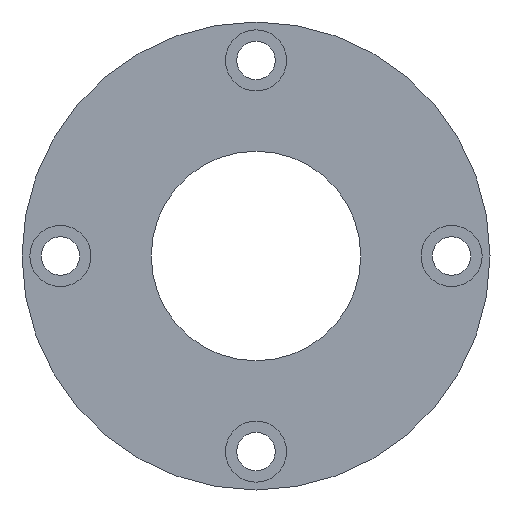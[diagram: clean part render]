
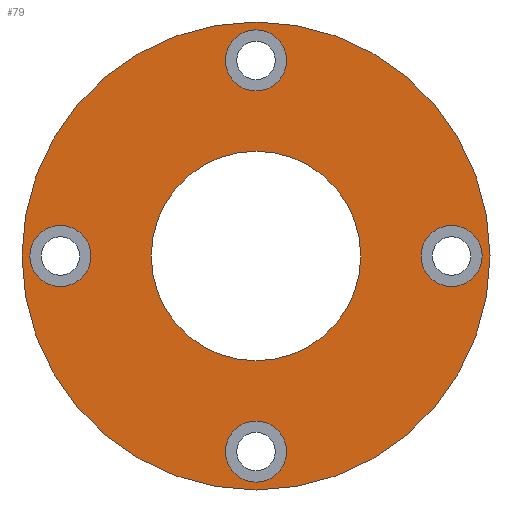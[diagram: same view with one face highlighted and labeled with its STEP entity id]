
A CAD part, left-side view. The second image highlights one B-rep face of the part: STEP entity #79.
In plain terms, the highlighted planar face has unit normal (-1, 0, 0).
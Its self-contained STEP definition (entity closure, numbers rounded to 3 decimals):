
#79 = ADVANCED_FACE( '', ( #110, #111, #112, #113, #114, #115 ), #116, .T. );
#110 = FACE_BOUND( '', #172, .T. );
#111 = FACE_BOUND( '', #173, .T. );
#112 = FACE_BOUND( '', #174, .T. );
#113 = FACE_BOUND( '', #175, .T. );
#114 = FACE_BOUND( '', #176, .T. );
#115 = FACE_OUTER_BOUND( '', #177, .T. );
#116 = PLANE( '', #178 );
#172 = EDGE_LOOP( '', ( #242 ) );
#173 = EDGE_LOOP( '', ( #243 ) );
#174 = EDGE_LOOP( '', ( #244 ) );
#175 = EDGE_LOOP( '', ( #245 ) );
#176 = EDGE_LOOP( '', ( #246 ) );
#177 = EDGE_LOOP( '', ( #247 ) );
#178 = AXIS2_PLACEMENT_3D( '', #248, #249, #250 );
#242 = ORIENTED_EDGE( '', *, *, #324, .T. );
#243 = ORIENTED_EDGE( '', *, *, #325, .T. );
#244 = ORIENTED_EDGE( '', *, *, #326, .T. );
#245 = ORIENTED_EDGE( '', *, *, #327, .T. );
#246 = ORIENTED_EDGE( '', *, *, #328, .T. );
#247 = ORIENTED_EDGE( '', *, *, #329, .F. );
#248 = CARTESIAN_POINT( '', ( 0., 67., 0. ) );
#249 = DIRECTION( '', ( -1., 0., 0. ) );
#250 = DIRECTION( '', ( 0., 0., 1. ) );
#324 = EDGE_CURVE( '', #354, #354, #355, .T. );
#325 = EDGE_CURVE( '', #356, #356, #357, .F. );
#326 = EDGE_CURVE( '', #358, #358, #359, .T. );
#327 = EDGE_CURVE( '', #360, #360, #361, .T. );
#328 = EDGE_CURVE( '', #362, #362, #363, .T. );
#329 = EDGE_CURVE( '', #364, #364, #365, .T. );
#354 = VERTEX_POINT( '', #398 );
#355 = CIRCLE( '', #399, 30. );
#356 = VERTEX_POINT( '', #400 );
#357 = CIRCLE( '', #401, 8.75 );
#358 = VERTEX_POINT( '', #402 );
#359 = CIRCLE( '', #403, 8.75 );
#360 = VERTEX_POINT( '', #404 );
#361 = CIRCLE( '', #405, 8.75 );
#362 = VERTEX_POINT( '', #406 );
#363 = CIRCLE( '', #407, 8.75 );
#364 = VERTEX_POINT( '', #408 );
#365 = CIRCLE( '', #409, 67. );
#398 = CARTESIAN_POINT( '', ( 0., 0., -30. ) );
#399 = AXIS2_PLACEMENT_3D( '', #450, #451, #452 );
#400 = CARTESIAN_POINT( '', ( 0., 56., 8.75 ) );
#401 = AXIS2_PLACEMENT_3D( '', #453, #454, #455 );
#402 = CARTESIAN_POINT( '', ( 0., 0., 47.25 ) );
#403 = AXIS2_PLACEMENT_3D( '', #456, #457, #458 );
#404 = CARTESIAN_POINT( '', ( 0., 0., -64.75 ) );
#405 = AXIS2_PLACEMENT_3D( '', #459, #460, #461 );
#406 = CARTESIAN_POINT( '', ( 0., -56., -8.75 ) );
#407 = AXIS2_PLACEMENT_3D( '', #462, #463, #464 );
#408 = CARTESIAN_POINT( '', ( 0., 0., -67. ) );
#409 = AXIS2_PLACEMENT_3D( '', #465, #466, #467 );
#450 = CARTESIAN_POINT( '', ( 0., 0., 0. ) );
#451 = DIRECTION( '', ( 1., 0., 0. ) );
#452 = DIRECTION( '', ( 0., 0., -1. ) );
#453 = CARTESIAN_POINT( '', ( 0., 56., 0. ) );
#454 = DIRECTION( '', ( -1., 0., 0. ) );
#455 = DIRECTION( '', ( 0., 0., 1. ) );
#456 = CARTESIAN_POINT( '', ( 0., 0., 56. ) );
#457 = DIRECTION( '', ( 1., 0., 0. ) );
#458 = DIRECTION( '', ( 0., 0., -1. ) );
#459 = CARTESIAN_POINT( '', ( 0., 0., -56. ) );
#460 = DIRECTION( '', ( 1., 0., 0. ) );
#461 = DIRECTION( '', ( 0., 0., -1. ) );
#462 = CARTESIAN_POINT( '', ( 0., -56., 0. ) );
#463 = DIRECTION( '', ( 1., 0., 0. ) );
#464 = DIRECTION( '', ( 0., 0., -1. ) );
#465 = CARTESIAN_POINT( '', ( 0., 0., 0. ) );
#466 = DIRECTION( '', ( 1., 0., 0. ) );
#467 = DIRECTION( '', ( 0., 0., -1. ) );
